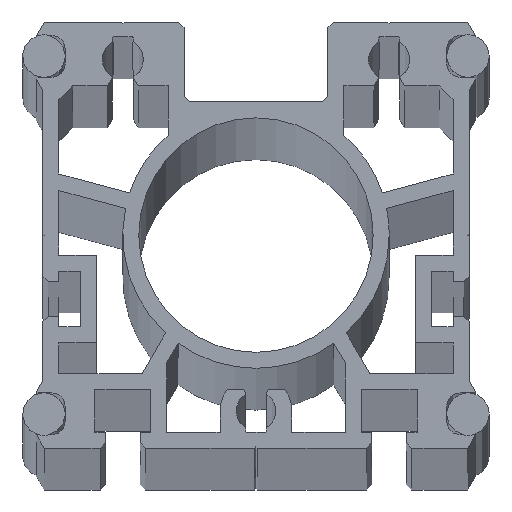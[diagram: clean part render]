
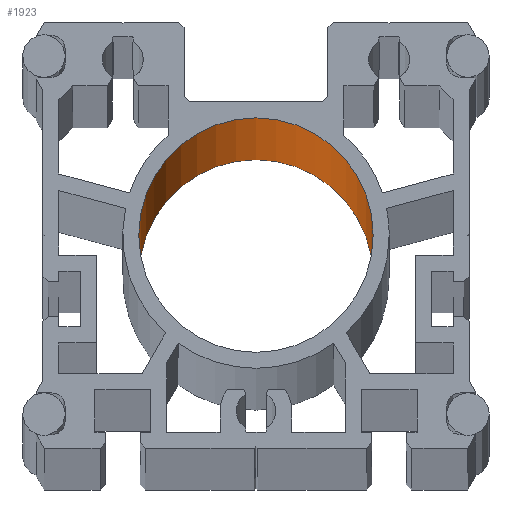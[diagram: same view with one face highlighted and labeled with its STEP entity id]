
A CAD part, top view. The second image highlights one B-rep face of the part: STEP entity #1923.
In plain terms, the highlighted cylindrical face has radius 22 mm (diameter 44 mm), a partial arc.
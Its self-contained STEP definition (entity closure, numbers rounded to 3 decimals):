
#482 = VERTEX_POINT ( 'NONE', #3885 ) ;
#483 = VERTEX_POINT ( 'NONE', #3884 ) ;
#517 = VERTEX_POINT ( 'NONE', #3849 ) ;
#572 = EDGE_CURVE ( 'NONE', #482, #517, #3842, .T. ) ;
#587 = VERTEX_POINT ( 'NONE', #4108 ) ;
#736 = EDGE_CURVE ( 'NONE', #483, #587, #4567, .T. ) ;
#1249 = EDGE_CURVE ( 'NONE', #483, #482, #4871, .T. ) ;
#1921 = EDGE_CURVE ( 'NONE', #587, #517, #6188, .T. ) ;
#1923 = ADVANCED_FACE ( 'NONE', ( #6028 ), #6027, .F. ) ;
#1977 = EDGE_LOOP ( 'NONE', ( #1978, #1979, #1980, #1981 ) ) ;
#1978 = ORIENTED_EDGE ( 'NONE', *, *, #572, .F. ) ;
#1979 = ORIENTED_EDGE ( 'NONE', *, *, #1249, .F. ) ;
#1980 = ORIENTED_EDGE ( 'NONE', *, *, #736, .T. ) ;
#1981 = ORIENTED_EDGE ( 'NONE', *, *, #1921, .T. ) ;
#3839 = DIRECTION ( 'NONE',  ( 0., 0., 1. ) ) ;
#3840 = VECTOR ( 'NONE', #3839, 1000. ) ;
#3841 = CARTESIAN_POINT ( 'NONE',  ( -22., 40., -2249. ) ) ;
#3842 = LINE ( 'NONE', #3841, #3840 ) ;
#3849 = CARTESIAN_POINT ( 'NONE',  ( -22., 40., 2249. ) ) ;
#3884 = CARTESIAN_POINT ( 'NONE',  ( 22., 40., -2249. ) ) ;
#3885 = CARTESIAN_POINT ( 'NONE',  ( -22., 40., -2249. ) ) ;
#4108 = CARTESIAN_POINT ( 'NONE',  ( 22., 40., 2249. ) ) ;
#4564 = DIRECTION ( 'NONE',  ( 0., 0., 1. ) ) ;
#4565 = VECTOR ( 'NONE', #4564, 1000. ) ;
#4566 = CARTESIAN_POINT ( 'NONE',  ( 22., 40., -2249. ) ) ;
#4567 = LINE ( 'NONE', #4566, #4565 ) ;
#4867 = DIRECTION ( 'NONE',  ( 1., 0., 0. ) ) ;
#4868 = DIRECTION ( 'NONE',  ( 0., 0., 1. ) ) ;
#4869 = CARTESIAN_POINT ( 'NONE',  ( 0., 40., -2249. ) ) ;
#4870 = AXIS2_PLACEMENT_3D ( 'NONE', #4869, #4868, #4867 ) ;
#4871 = CIRCLE ( 'NONE', #4870, 22. ) ;
#6024 = DIRECTION ( 'NONE',  ( 0., 0., 1. ) ) ;
#6025 = CARTESIAN_POINT ( 'NONE',  ( 0., 40., -2249. ) ) ;
#6026 = AXIS2_PLACEMENT_3D ( 'NONE', #6025, #6024, #6107 ) ;
#6027 = CYLINDRICAL_SURFACE ( 'NONE', #6026, 22. ) ;
#6028 = FACE_OUTER_BOUND ( 'NONE', #1977, .T. ) ;
#6029 = DIRECTION ( 'NONE',  ( 1., 0., 0. ) ) ;
#6030 = DIRECTION ( 'NONE',  ( 0., 0., 1. ) ) ;
#6031 = CARTESIAN_POINT ( 'NONE',  ( 0., 40., 2249. ) ) ;
#6107 = DIRECTION ( 'NONE',  ( 1., 0., 0. ) ) ;
#6187 = AXIS2_PLACEMENT_3D ( 'NONE', #6031, #6030, #6029 ) ;
#6188 = CIRCLE ( 'NONE', #6187, 22. ) ;
